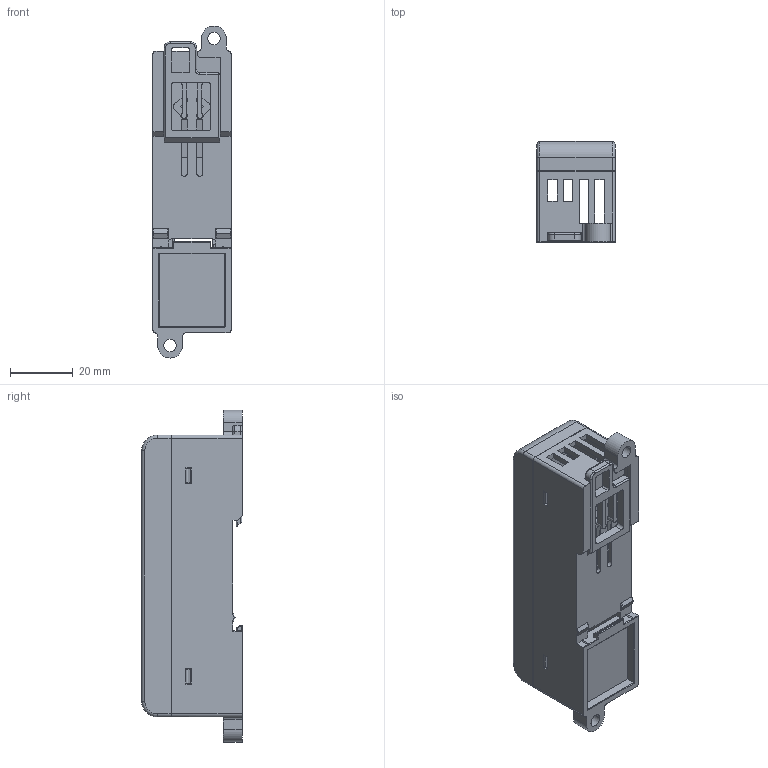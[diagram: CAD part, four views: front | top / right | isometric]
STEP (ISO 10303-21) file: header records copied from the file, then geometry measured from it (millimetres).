
FILE_DESCRIPTION((''),'2;1');
FILE_NAME('B1-CM_ASM','2021-06-09T',('Jacky Chang'),('ME Department of NTUST'),'PRO/ENGINEER BY PARAMETRIC TECHNOLOGY CORPORATION, 2014200','PRO/ENGINEER BY PARAMETRIC TECHNOLOGY CORPORATION, 2014200','');
FILE_SCHEMA(('CONFIG_CONTROL_DESIGN','GEOMETRIC_VALIDATION_PROPERTIES_MIM'));
Length unit declared in the file: millimetre
Products named in the file (5): B1-CM55_UP_COVER; B1-CM_DOWN_COVER_NEW; DIN-RAIL-NEW; B1-CM_DOWN_COVER_NEW_ASM; B1-CM_ASM
Assembly tree (4 placements, depth 3):
  B1-CM_ASM
    B1-CM55_UP_COVER
    B1-CM_DOWN_COVER_NEW_ASM
      B1-CM_DOWN_COVER_NEW
      DIN-RAIL-NEW
Bounding box: 25 x 32.1 x 106 mm (x, y, z)
Volume: 20105.9 mm3; surface area: 25387.7 mm2
Topology: 3 solids, 3 shells, 624 faces, 1786 edges, 1152 vertices
Faces by surface type: plane 440, cylinder 150, sphere 16, torus 14, bspline 4
Entity records: 26044 total; most frequent: CARTESIAN_POINT 3809, ORIENTED_EDGE 3572, DIRECTION 3313, PRESENTATION_STYLE_ASSIGNMENT 1789, STYLED_ITEM 1789, CURVE_STYLE 1786, EDGE_CURVE 1786, VECTOR 1447
